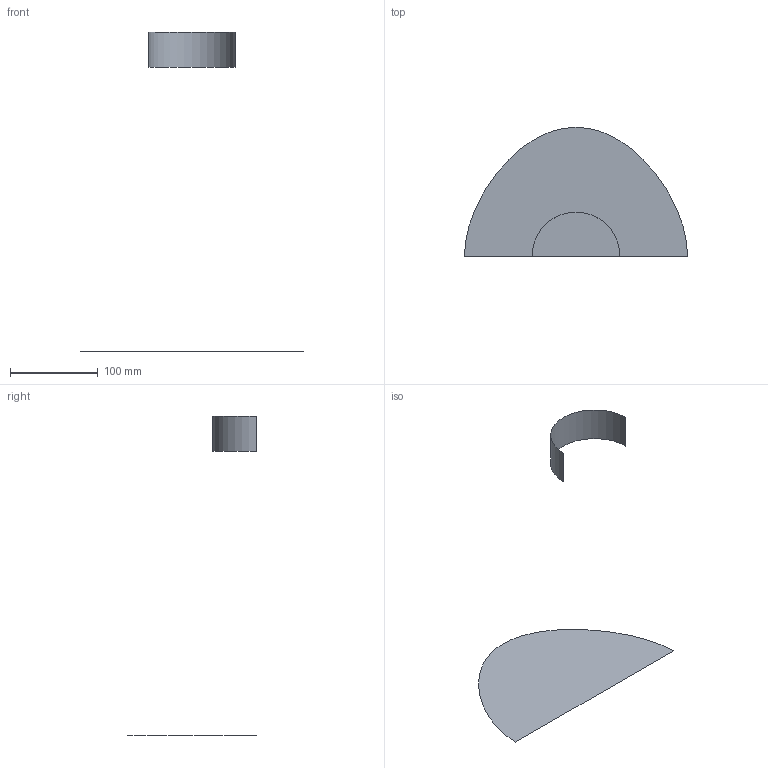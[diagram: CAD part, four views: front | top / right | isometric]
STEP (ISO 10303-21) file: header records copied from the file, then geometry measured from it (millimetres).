
FILE_DESCRIPTION(('CATIA V5 STEP Exchange'),'2;1');
FILE_NAME('C:\_Andres\UNIVERSIDAD\IQS\ASIGNATURAS\DAO\Controles\1617\c1\1original\Garcia_Granada_Ej00-base_v37.stp','2017-02-06T16:27:59+00:00',('none'),('none'),'CATIA Version 5-6 Release 2014 SP1 HF18','CATIA V5 STEP AP203','none');
FILE_SCHEMA(('CONFIG_CONTROL_DESIGN'));
Length unit declared in the file: millimetre
Products named in the file (1): Garcia_Granada_Ej00-base_v37
Bounding box: 254 x 147 x 364 mm (x, y, z)
Surface area: 34376.7 mm2 (no closed solid volume)
Topology: 0 solids, 2 shells, 2 faces, 16 edges, 26 vertices
Faces by surface type: cylinder 1, plane 1
Entity records: 230 total; most frequent: CARTESIAN_POINT 78, DIRECTION 16, COMPOSITE_CURVE_SEGMENT 9, TRIMMED_CURVE 9, AXIS2_PLACEMENT_3D 8, COMPOSITE_CURVE 7, ORIENTED_EDGE 7, EDGE_CURVE 7
